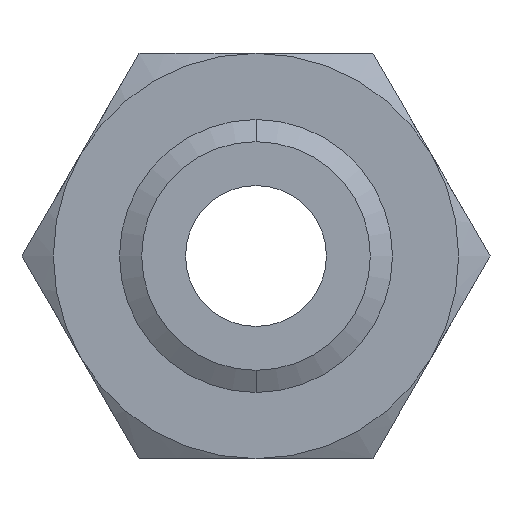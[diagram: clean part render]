
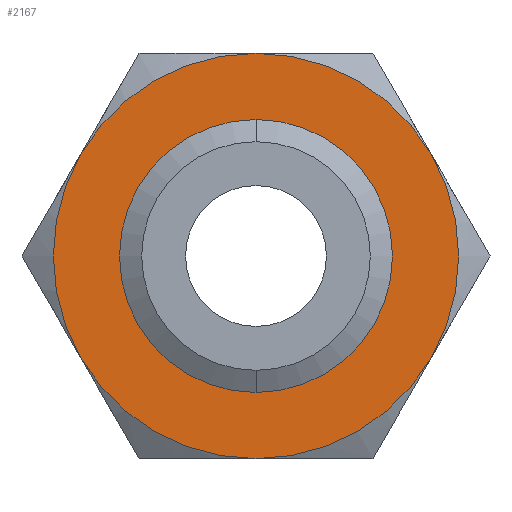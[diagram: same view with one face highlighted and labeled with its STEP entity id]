
A CAD part, front view. The second image highlights one B-rep face of the part: STEP entity #2167.
In plain terms, the highlighted planar face has unit normal (0, -1, 0).
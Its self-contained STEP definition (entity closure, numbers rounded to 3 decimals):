
#826 = CARTESIAN_POINT ( 'NONE',  ( 41.136, 0., 23.75 ) ) ;
#865 = DIRECTION ( 'NONE',  ( 0., 0., 1. ) ) ;
#866 = DIRECTION ( 'NONE',  ( 0., 1., 0. ) ) ;
#867 = CARTESIAN_POINT ( 'NONE',  ( 0., 0., 0. ) ) ;
#868 = AXIS2_PLACEMENT_3D ( 'NONE', #867, #866, #865 ) ;
#869 = CIRCLE ( 'NONE', #868, 47.5 ) ;
#876 = DIRECTION ( 'NONE',  ( 0., 0., 1. ) ) ;
#877 = DIRECTION ( 'NONE',  ( 0., 1., 0. ) ) ;
#878 = CARTESIAN_POINT ( 'NONE',  ( 0., 0., 0. ) ) ;
#879 = AXIS2_PLACEMENT_3D ( 'NONE', #878, #877, #876 ) ;
#880 = CIRCLE ( 'NONE', #879, 47.5 ) ;
#997 = CARTESIAN_POINT ( 'NONE',  ( -41.136, 0., -23.75 ) ) ;
#1233 = DIRECTION ( 'NONE',  ( 0., 1., 0. ) ) ;
#1234 = CARTESIAN_POINT ( 'NONE',  ( 0., 0., 0. ) ) ;
#1235 = AXIS2_PLACEMENT_3D ( 'NONE', #1234, #1233, #1296 ) ;
#1236 = CIRCLE ( 'NONE', #1235, 47.5 ) ;
#1237 = DIRECTION ( 'NONE',  ( 0., 0., 1. ) ) ;
#1238 = DIRECTION ( 'NONE',  ( 0., 1., 0. ) ) ;
#1239 = CARTESIAN_POINT ( 'NONE',  ( 0., 0., 0. ) ) ;
#1240 = AXIS2_PLACEMENT_3D ( 'NONE', #1239, #1238, #1237 ) ;
#1241 = CIRCLE ( 'NONE', #1240, 47.5 ) ;
#1242 = CARTESIAN_POINT ( 'NONE',  ( 0., 0., -47.5 ) ) ;
#1243 = DIRECTION ( 'NONE',  ( 0., 0., 1. ) ) ;
#1244 = DIRECTION ( 'NONE',  ( 0., 1., 0. ) ) ;
#1245 = AXIS2_PLACEMENT_3D ( 'NONE', #1256, #1244, #1243 ) ;
#1254 = CIRCLE ( 'NONE', #1245, 47.5 ) ;
#1255 = CARTESIAN_POINT ( 'NONE',  ( 41.136, 0., -23.75 ) ) ;
#1256 = CARTESIAN_POINT ( 'NONE',  ( 0., 0., 0. ) ) ;
#1285 = DIRECTION ( 'NONE',  ( 0., 0., -1. ) ) ;
#1286 = DIRECTION ( 'NONE',  ( 0., -1., 0. ) ) ;
#1287 = CARTESIAN_POINT ( 'NONE',  ( 0., 0., 0. ) ) ;
#1288 = AXIS2_PLACEMENT_3D ( 'NONE', #1287, #1286, #1285 ) ;
#1289 = CIRCLE ( 'NONE', #1288, 26.804 ) ;
#1296 = DIRECTION ( 'NONE',  ( 0., 0., 1. ) ) ;
#1304 = DIRECTION ( 'NONE',  ( 0., 0., 1. ) ) ;
#1305 = DIRECTION ( 'NONE',  ( 0., 1., 0. ) ) ;
#1306 = CARTESIAN_POINT ( 'NONE',  ( 0., 0., 0. ) ) ;
#1307 = AXIS2_PLACEMENT_3D ( 'NONE', #1306, #1305, #1304 ) ;
#1308 = CIRCLE ( 'NONE', #1307, 47.5 ) ;
#1327 = PLANE ( 'NONE',  #1390 ) ;
#1328 = FACE_BOUND ( 'NONE', #2121, .T. ) ;
#1329 = FACE_OUTER_BOUND ( 'NONE', #1935, .T. ) ;
#1340 = DIRECTION ( 'NONE',  ( 0., 0., -1. ) ) ;
#1341 = DIRECTION ( 'NONE',  ( 0., -1., 0. ) ) ;
#1342 = CARTESIAN_POINT ( 'NONE',  ( 0., 0., 0. ) ) ;
#1343 = AXIS2_PLACEMENT_3D ( 'NONE', #1342, #1341, #1340 ) ;
#1344 = CIRCLE ( 'NONE', #1343, 26.804 ) ;
#1345 = CARTESIAN_POINT ( 'NONE',  ( 0., 0., 26.804 ) ) ;
#1350 = CARTESIAN_POINT ( 'NONE',  ( 0., 0., -26.804 ) ) ;
#1353 = CARTESIAN_POINT ( 'NONE',  ( 0., 0., 47.5 ) ) ;
#1387 = DIRECTION ( 'NONE',  ( 0., 0., 1. ) ) ;
#1388 = DIRECTION ( 'NONE',  ( 0., 1., 0. ) ) ;
#1389 = CARTESIAN_POINT ( 'NONE',  ( 27.424, 0., -47.5 ) ) ;
#1390 = AXIS2_PLACEMENT_3D ( 'NONE', #1389, #1388, #1387 ) ;
#1415 = CARTESIAN_POINT ( 'NONE',  ( -41.136, 0., 23.75 ) ) ;
#1935 = EDGE_LOOP ( 'NONE', ( #1945, #1938, #1946, #2023, #2114, #2111 ) ) ;
#1938 = ORIENTED_EDGE ( 'NONE', *, *, #2148, .F. ) ;
#1939 = VERTEX_POINT ( 'NONE', #826 ) ;
#1940 = EDGE_CURVE ( 'NONE', #2152, #1939, #880, .T. ) ;
#1945 = ORIENTED_EDGE ( 'NONE', *, *, #1940, .F. ) ;
#1946 = ORIENTED_EDGE ( 'NONE', *, *, #1947, .F. ) ;
#1947 = EDGE_CURVE ( 'NONE', #2011, #2187, #869, .T. ) ;
#2011 = VERTEX_POINT ( 'NONE', #997 ) ;
#2023 = ORIENTED_EDGE ( 'NONE', *, *, #2117, .F. ) ;
#2111 = ORIENTED_EDGE ( 'NONE', *, *, #2123, .F. ) ;
#2112 = EDGE_CURVE ( 'NONE', #2113, #2116, #1254, .T. ) ;
#2113 = VERTEX_POINT ( 'NONE', #1255 ) ;
#2114 = ORIENTED_EDGE ( 'NONE', *, *, #2112, .F. ) ;
#2116 = VERTEX_POINT ( 'NONE', #1242 ) ;
#2117 = EDGE_CURVE ( 'NONE', #2116, #2011, #1241, .T. ) ;
#2119 = ORIENTED_EDGE ( 'NONE', *, *, #2128, .F. ) ;
#2120 = ORIENTED_EDGE ( 'NONE', *, *, #2158, .F. ) ;
#2121 = EDGE_LOOP ( 'NONE', ( #2120, #2119 ) ) ;
#2123 = EDGE_CURVE ( 'NONE', #1939, #2113, #1236, .T. ) ;
#2128 = EDGE_CURVE ( 'NONE', #2156, #2155, #1289, .T. ) ;
#2148 = EDGE_CURVE ( 'NONE', #2187, #2152, #1308, .T. ) ;
#2152 = VERTEX_POINT ( 'NONE', #1353 ) ;
#2155 = VERTEX_POINT ( 'NONE', #1350 ) ;
#2156 = VERTEX_POINT ( 'NONE', #1345 ) ;
#2158 = EDGE_CURVE ( 'NONE', #2155, #2156, #1344, .T. ) ;
#2167 = ADVANCED_FACE ( 'NONE', ( #1329, #1328 ), #1327, .F. ) ;
#2187 = VERTEX_POINT ( 'NONE', #1415 ) ;
